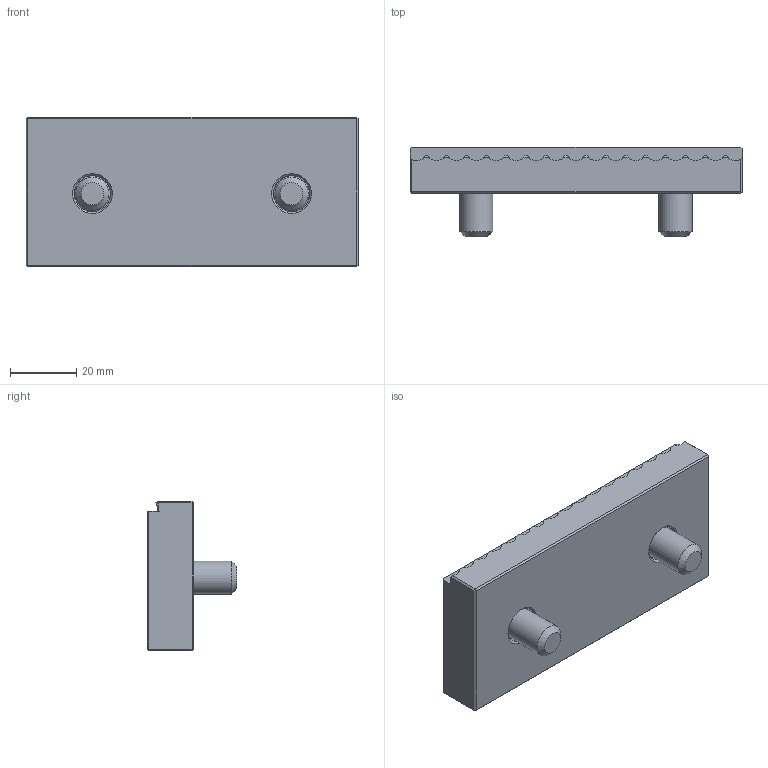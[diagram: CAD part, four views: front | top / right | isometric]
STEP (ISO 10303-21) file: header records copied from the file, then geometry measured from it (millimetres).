
FILE_DESCRIPTION(('STEP AP214'), '1');
FILE_NAME('BB.VS.100.70.050', '', ('UNSPECIFIED'), ('UNSPECIFIED'), 'C3D Converter', 'C3D Toolkit', '');
FILE_SCHEMA(('AUTOMOTIVE_DESIGN { 1 0 10303 214 3 1 1}'));
Length unit declared in the file: millimetre
Products named in the file (1): BB.VS.100.70.050 СБ
Bounding box: 100 x 27 x 45 mm (x, y, z)
Volume: 61426.2 mm3; surface area: 16579.3 mm2
Topology: 1 solids, 1 shells, 131 faces, 333 edges, 212 vertices
Faces by surface type: plane 76, cylinder 41, cone 10, torus 4
Full cylindrical faces by diameter (mm): 10 x2, 11 x2, 16 x2, 18 x2
Entity records: 5754 total; most frequent: CARTESIAN_POINT 1851, ORIENTED_EDGE 618, DIRECTION 523, EDGE_CURVE 309, VERTEX_POINT 210, AXIS2_PLACEMENT_3D 194, EDGE_LOOP 161, LINE 135
